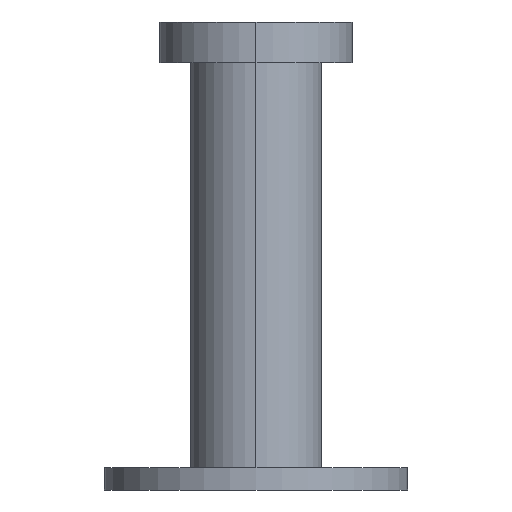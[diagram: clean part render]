
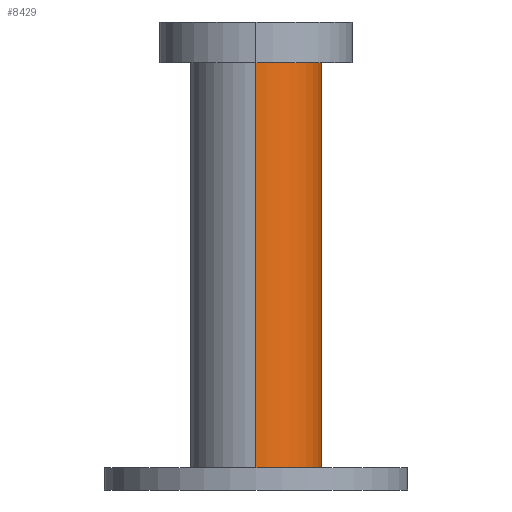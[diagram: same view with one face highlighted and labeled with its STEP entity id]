
A CAD part, left-side view. The second image highlights one B-rep face of the part: STEP entity #8429.
In plain terms, the highlighted cylindrical face has radius 6.5 mm (diameter 13 mm), a partial arc.
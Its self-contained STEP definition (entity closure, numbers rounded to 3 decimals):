
#8223=CARTESIAN_POINT('',(0.,0.,0.));
#8224=DIRECTION('',(0.,1.,0.));
#8225=DIRECTION('',(1.,0.,0.));
#8226=AXIS2_PLACEMENT_3D('',#8223,#8224,#8225);
#8243=DIRECTION('',(0.,1.,0.));
#8244=VECTOR('',#8243,40.);
#8245=CARTESIAN_POINT('',(6.5,0.,0.));
#8246=LINE('',#8245,#8244);
#8247=DIRECTION('',(0.,1.,0.));
#8248=VECTOR('',#8247,40.);
#8249=CARTESIAN_POINT('',(-6.5,0.,0.));
#8250=LINE('',#8249,#8248);
#8251=CARTESIAN_POINT('',(0.,40.,0.));
#8252=DIRECTION('',(0.,1.,0.));
#8253=DIRECTION('',(1.,0.,0.));
#8254=AXIS2_PLACEMENT_3D('',#8251,#8252,#8253);
#8361=CARTESIAN_POINT('',(6.5,0.,0.));
#8362=CARTESIAN_POINT('',(-6.5,0.,0.));
#8363=VERTEX_POINT('',#8361);
#8364=VERTEX_POINT('',#8362);
#8365=CARTESIAN_POINT('',(6.5,40.,0.));
#8366=CARTESIAN_POINT('',(-6.5,40.,0.));
#8367=VERTEX_POINT('',#8365);
#8368=VERTEX_POINT('',#8366);
#8415=CARTESIAN_POINT('',(0.,0.,0.));
#8416=DIRECTION('',(0.,1.,0.));
#8417=DIRECTION('',(1.,0.,0.));
#8418=AXIS2_PLACEMENT_3D('',#8415,#8416,#8417);
#8419=CYLINDRICAL_SURFACE('',#8418,6.5);
#8420=ORIENTED_EDGE('',*,*,#8402,.F.);
#8422=ORIENTED_EDGE('',*,*,#8421,.T.);
#8424=ORIENTED_EDGE('',*,*,#8423,.T.);
#8426=ORIENTED_EDGE('',*,*,#8425,.F.);
#8427=EDGE_LOOP('',(#8420,#8422,#8424,#8426));
#8428=FACE_OUTER_BOUND('',#8427,.F.);
#8429=ADVANCED_FACE('',(#8428),#8419,.T.);
#8227=CIRCLE('',#8226,6.5);
#8255=CIRCLE('',#8254,6.5);
#8402=EDGE_CURVE('',#8363,#8364,#8227,.T.);
#8421=EDGE_CURVE('',#8363,#8367,#8246,.T.);
#8423=EDGE_CURVE('',#8367,#8368,#8255,.T.);
#8425=EDGE_CURVE('',#8364,#8368,#8250,.T.);
